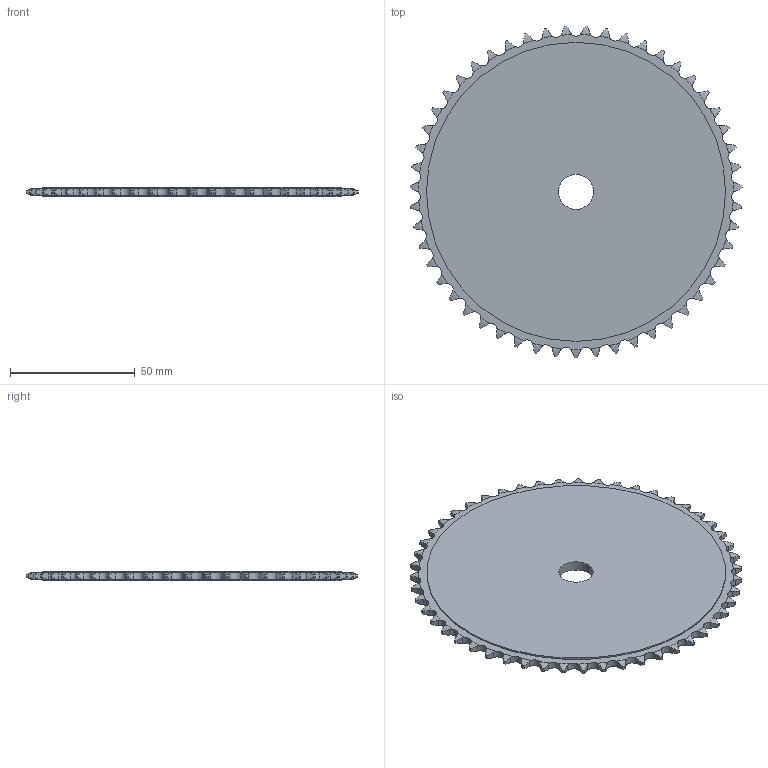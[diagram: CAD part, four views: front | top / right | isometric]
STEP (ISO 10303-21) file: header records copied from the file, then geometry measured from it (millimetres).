
FILE_DESCRIPTION((''),'2;1');
FILE_NAME('500-081-0051_PRT','2021-02-12T',('Brieden'),('Brieden'),'PRO/ENGINEER BY PARAMETRIC TECHNOLOGY CORPORATION, 2010160','PRO/ENGINEER BY PARAMETRIC TECHNOLOGY CORPORATION, 2010160','');
FILE_SCHEMA(('AUTOMOTIVE_DESIGN { 1 0 10303 214 1 1 1 1 }'));
Length unit declared in the file: millimetre
Products named in the file (1): 500-081-0051_PRT
Bounding box: 133.17 x 133.1 x 4 mm (x, y, z)
Volume: 48871.7 mm3; surface area: 27621.7 mm2
Topology: 1 solids, 1 shells, 316 faces, 936 edges, 624 vertices
Faces by surface type: cylinder 210, torus 102, plane 4
Entity records: 14790 total; most frequent: CARTESIAN_POINT 3945, ORIENTED_EDGE 1872, DIRECTION 1478, PRESENTATION_STYLE_ASSIGNMENT 937, STYLED_ITEM 937, CURVE_STYLE 936, EDGE_CURVE 936, AXIS2_PLACEMENT_3D 634
